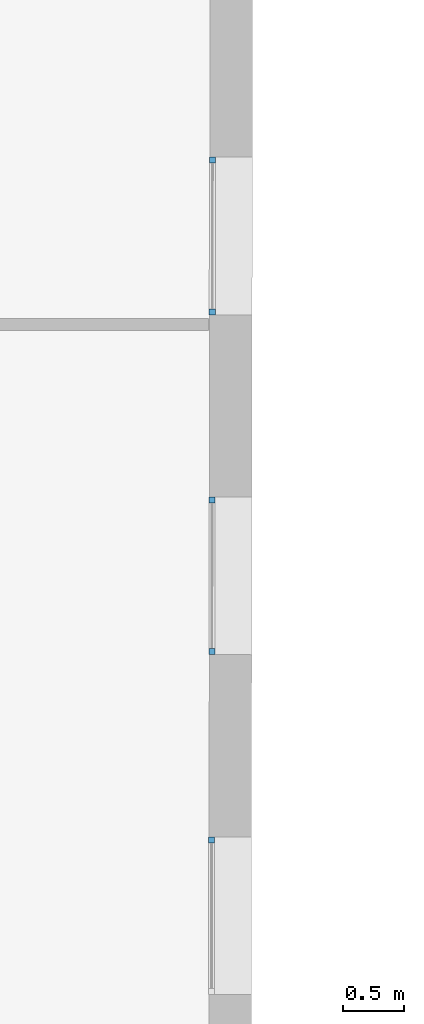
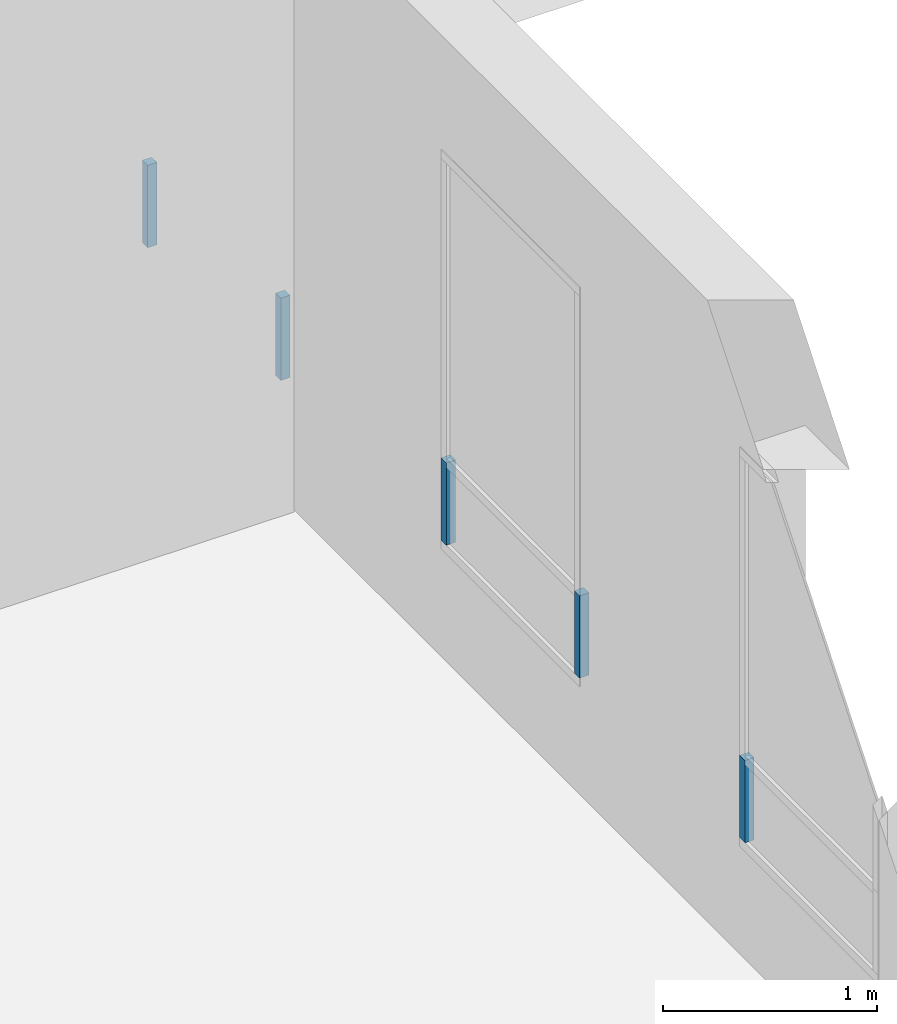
# One storey, part 31 of 101: 5 members, 3 elements without a shape of their own.
"""IFC2X3 building model written with IfcOpenShell, lengths in metres."""

import ifcopenshell
import ifcopenshell.guid

model = None  # the IFC model being written
_history = None  # IfcOwnerHistory: only IFC2X3 demands one
_inside = {}  # id of a spatial element -> (the spatial element, [elements in it])
_under = {}  # id of a project, library or spatial element -> (it, [spatial elements below it])
_declared = {}  # id of a project -> (the project, [libraries it declares])
_typed = {}  # id of a type object -> (the type object, [elements of that type])
_made_of = {}  # id of a material, layer set ... -> (it, [elements and type objects made of it])


def new_model(schema):
    """Start an empty IFC model of exactly this schema.

    Asked for "IFC4X3", IfcOpenShell would pick the latest addendum, in which some entities
    have other attributes; the version numbers below select the first issue.
    IFC2X3 requires an IfcOwnerHistory on every rooted entity: one is made here for all.
    """
    global model, _history
    if schema == "IFC4X3":
        model = ifcopenshell.file(schema_version=(4, 3, 0, 0))
    else:
        model = ifcopenshell.file(schema=schema)
    _inside.clear()
    _under.clear()
    _declared.clear()
    _typed.clear()
    _made_of.clear()
    _history = None
    if model.schema == "IFC2X3":
        org = make("IfcOrganization", Name="unknown")
        user = make(
            "IfcPersonAndOrganization",
            ThePerson=make("IfcPerson", FamilyName="unknown"),
            TheOrganization=org,
        )
        app = make(
            "IfcApplication",
            ApplicationDeveloper=org,
            Version="unknown",
            ApplicationFullName="unknown",
            ApplicationIdentifier="unknown",
        )
        _history = make(
            "IfcOwnerHistory",
            OwningUser=user,
            OwningApplication=app,
            ChangeAction="ADDED",
            CreationDate=0,
        )
    return model


def make(cls, **values):
    """One entity of the class cls with the attributes given. An attribute that is None is left unset."""
    return model.create_entity(
        cls, **{name: value for name, value in values.items() if value is not None}
    )


def entity(cls, *values):
    """Any entity or typed value of the class cls, its attributes in the order of the schema. None: left unset."""
    e = model.create_entity(cls)
    for i, value in enumerate(values):
        if value is not None:
            e[i] = value
    return e


def rooted(cls, **values):
    """An entity with a GlobalId (a new one), such as an element, a storey or a relation."""
    return make(cls, GlobalId=ifcopenshell.guid.new(), OwnerHistory=_history, **values)


def si_unit(unit_type, name, prefix=None):
    """IfcSIUnit, for example si_unit("LENGTHUNIT", "METRE", prefix="MILLI")."""
    return make("IfcSIUnit", UnitType=unit_type, Prefix=prefix, Name=name)


def converted_unit(unit_type, name, factor, base, dimensions=None, offset=None):
    """IfcConversionBasedUnit, such as the inch: factor (a typed value) times the base unit."""
    return make(
        "IfcConversionBasedUnit"
        if offset is None
        else "IfcConversionBasedUnitWithOffset",
        ConversionOffset=offset,
        Dimensions=None
        if dimensions is None
        else entity("IfcDimensionalExponents", *dimensions),
        UnitType=unit_type,
        Name=name,
        ConversionFactor=make(
            "IfcMeasureWithUnit", ValueComponent=factor, UnitComponent=base
        ),
    )


def derived_unit(unit_type, elements):
    """IfcDerivedUnit: a product of units, each with its exponent."""
    return make(
        "IfcDerivedUnit",
        Elements=[
            make("IfcDerivedUnitElement", Unit=unit, Exponent=power)
            for unit, power in elements
        ],
        UnitType=unit_type,
    )


def assignment(units):
    """IfcUnitAssignment: the units of a project."""
    return None if units is None else make("IfcUnitAssignment", Units=units)


def point(xyz):
    """IfcCartesianPoint."""
    return None if xyz is None else make("IfcCartesianPoint", Coordinates=xyz)


def direction(xyz):
    """IfcDirection."""
    return None if xyz is None else make("IfcDirection", DirectionRatios=xyz)


def frame(location, z_axis=None, x_axis=None):
    """IfcAxis2Placement3D, a coordinate frame: its origin and axes. An axis left out is left unset."""
    return make(
        "IfcAxis2Placement3D",
        Location=point(location),
        Axis=direction(z_axis),
        RefDirection=direction(x_axis),
    )


def frame_2d(location, x_axis=None):
    """IfcAxis2Placement2D, a coordinate frame in the plane: its origin and x axis."""
    return make(
        "IfcAxis2Placement2D", Location=point(location), RefDirection=direction(x_axis)
    )


def origin():
    """The frame at (0, 0, 0) with its axes left unset."""
    return frame((0.0, 0.0, 0.0))


def origin_2d_with_axis():
    """The frame at (0, 0) in the plane with the x axis (1, 0) written out."""
    return frame_2d((0.0, 0.0), x_axis=(1.0, 0.0))


def place(relative_to, where):
    """IfcLocalPlacement: puts the frame where relative to a parent placement (None: the world)."""
    return make(
        "IfcLocalPlacement", PlacementRelTo=relative_to, RelativePlacement=where
    )


def context(
    kind, dimensions, precision=None, world=None, true_north=None, identifier=None
):
    """IfcGeometricRepresentationContext, for example the 3D "Model" context."""
    return make(
        "IfcGeometricRepresentationContext",
        ContextIdentifier=identifier,
        ContextType=kind,
        CoordinateSpaceDimension=dimensions,
        Precision=precision,
        WorldCoordinateSystem=world,
        TrueNorth=true_north,
    )


def subcontext(parent, identifier, kind, view, scale=None):
    """IfcGeometricRepresentationSubContext, for example "Body" below "Model"."""
    return make(
        "IfcGeometricRepresentationSubContext",
        ContextIdentifier=identifier,
        ContextType=kind,
        ParentContext=parent,
        TargetScale=scale,
        TargetView=view,
    )


def project(units=None, contexts=None):
    """IfcProject with its units and contexts."""
    return rooted(
        "IfcProject",
        Name="project",
        RepresentationContexts=contexts,
        UnitsInContext=assignment(units),
    )


def spatial(cls, under=None, at=None, **own):
    """A site, building, storey or space (cls), placed at a placement, below another one or the project."""
    s = rooted(cls, ObjectPlacement=at, **own)
    if under is not None:
        _under.setdefault(under.id(), (under, []))[1].append(s)
    return s


def profile(cls, at=None, kind="AREA", **sizes):
    """A parametric profile (cls). Its sizes go by their IFC names, for example OverallWidth=200.0."""
    return make(cls, ProfileType=kind, Position=at, **sizes)


def rectangle(**sizes):
    """IfcRectangleProfileDef."""
    return profile("IfcRectangleProfileDef", **sizes)


def extrude(swept, where, along, depth):
    """IfcExtrudedAreaSolid: the profile swept, set in the frame where, extruded along a direction by depth."""
    return make(
        "IfcExtrudedAreaSolid",
        SweptArea=swept,
        Position=where,
        ExtrudedDirection=direction(along),
        Depth=depth,
    )


def shape(context_of_items, identifier, shape_type, items):
    """IfcShapeRepresentation: the items that make up one representation, for example the "Body"."""
    return make(
        "IfcShapeRepresentation",
        ContextOfItems=context_of_items,
        RepresentationIdentifier=identifier,
        RepresentationType=shape_type,
        Items=items,
    )


def source(mapping_origin, context_of_items, identifier, shape_type, items):
    """IfcRepresentationMap: a shape defined once, which mapped items show again and again."""
    return make(
        "IfcRepresentationMap",
        MappingOrigin=mapping_origin,
        MappedRepresentation=shape(context_of_items, identifier, shape_type, items),
    )


def transform(
    local_origin,
    x_axis=None,
    y_axis=None,
    z_axis=None,
    scale=None,
    scale2=None,
    scale3=None,
    uniform=True,
):
    """IfcCartesianTransformationOperator3D, or its non-uniform kind. x_axis, y_axis, z_axis: its Axis1, 2, 3."""
    if uniform:
        return make(
            "IfcCartesianTransformationOperator3D",
            Axis1=direction(x_axis),
            Axis2=direction(y_axis),
            LocalOrigin=point(local_origin),
            Scale=scale,
            Axis3=direction(z_axis),
        )
    return make(
        "IfcCartesianTransformationOperator3DnonUniform",
        Axis1=direction(x_axis),
        Axis2=direction(y_axis),
        LocalOrigin=point(local_origin),
        Scale=scale,
        Axis3=direction(z_axis),
        Scale2=scale2,
        Scale3=scale3,
    )


def mapped(mapping_source, mapping_target):
    """IfcMappedItem: shows the shape of a source again, moved by a transform."""
    return make(
        "IfcMappedItem", MappingSource=mapping_source, MappingTarget=mapping_target
    )


def material(Name=None, Category=None):
    """IfcMaterial."""
    return make("IfcMaterial", Name=Name, Category=Category)


def made_of(thing, what):
    """Note that an element or type object is made of a material, layer set ...; save() writes the relation."""
    if what is not None:
        _made_of.setdefault(what.id(), (what, []))[1].append(thing)
    return thing


def type_object(cls, material=None, **own):
    """A type object (cls), such as IfcWallType, which elements share."""
    return made_of(rooted(cls, **own), material)


def type_shapes(of_type, sources):
    """Give a type object the sources (RepresentationMaps) that its elements show as mapped items."""
    of_type.RepresentationMaps = sources


def element(
    cls,
    number,
    at=None,
    inside=None,
    cuts=None,
    type_object=None,
    material=None,
    context=None,
    identifier="Body",
    shape_type=None,
    held_by="IfcProductDefinitionShape",
    body=None,
    shapes=None,
    **own,
):
    """One element of the class cls, such as IfcWall. Its Tag is "e" and its number.

    at: its placement. inside: the storey or other place that contains it. cuts: it is an
    opening in that element (IfcRelVoidsElement). A single representation is given by context,
    identifier, shape_type and body (its items); several are given by shapes. held_by: the class
    of the entity that holds the representations. save() writes the other relations.
    """
    e = rooted(cls, Tag="e%d" % number, ObjectPlacement=at, **own)
    if body is not None:
        shapes = [shape(context, identifier, shape_type, body)]
    if shapes is not None:
        e.Representation = make(held_by, Representations=shapes)
    if inside is not None:
        _inside.setdefault(inside.id(), (inside, []))[1].append(e)
    if cuts is not None:
        rooted(
            "IfcRelVoidsElement", RelatingBuildingElement=cuts, RelatedOpeningElement=e
        )
    if type_object is not None:
        _typed.setdefault(type_object.id(), (type_object, []))[1].append(e)
    return made_of(e, material)


def aggregate(whole, parts):
    """IfcRelAggregates: a whole, such as a stair, and the parts it consists of."""
    return rooted("IfcRelAggregates", RelatingObject=whole, RelatedObjects=parts)


def save(model, path):
    """Write the relations noted so far, then the file.

    IfcRelAggregates (storeys below a building ...), IfcRelContainedInSpatialStructure (elements
    in a storey), IfcRelDefinesByType, IfcRelAssociatesMaterial and IfcRelDeclares: one each for
    every whole, place, type object, material and project.
    """
    for whole, parts in _under.values():
        aggregate(whole, parts)
    for where, things in _inside.values():
        rooted(
            "IfcRelContainedInSpatialStructure",
            RelatedElements=things,
            RelatingStructure=where,
        )
    for kind, things in _typed.values():
        rooted("IfcRelDefinesByType", RelatedObjects=things, RelatingType=kind)
    for what, things in _made_of.values():
        rooted("IfcRelAssociatesMaterial", RelatedObjects=things, RelatingMaterial=what)
    for by, libraries in _declared.values():
        rooted("IfcRelDeclares", RelatingContext=by, RelatedDefinitions=libraries)
    model.write(path)


model = new_model("IFC2X3")

# Units and contexts
model_context = context("Model", 3, precision=1e-05, world=origin(), true_north=direction((6.123233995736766e-17, 1.0)))
body_context = subcontext(model_context, "Body", "Model", "MODEL_VIEW")
ifc_project = project(units=[si_unit("LENGTHUNIT", "METRE"), si_unit("AREAUNIT", "SQUARE_METRE"), converted_unit("PLANEANGLEUNIT", "DEGREE", entity("IfcPlaneAngleMeasure", 0.017453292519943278), si_unit("PLANEANGLEUNIT", "RADIAN"), dimensions=[0, 0, 0, 0, 0, 0, 0]), derived_unit("THERMALTRANSMITTANCEUNIT", [(si_unit("MASSUNIT", "GRAM", prefix="KILO"), 1), (si_unit("THERMODYNAMICTEMPERATUREUNIT", "KELVIN"), -1), (si_unit("TIMEUNIT", "SECOND"), -3)])], contexts=[model_context])

# Site, building, storey
site_placement = place(None, frame((1253.6752467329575, 2072.143113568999, 91.49999999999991), z_axis=(0.0, 0.0, 1.0), x_axis=(0.7237211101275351, 0.6900925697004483, 0.0)))
site = spatial("IfcSite", under=ifc_project, at=site_placement, Name="Surface", CompositionType="ELEMENT")
building_placement = place(site_placement, origin())
building = spatial("IfcBuilding", under=site, at=building_placement, CompositionType="ELEMENT")
storey_placement = place(building_placement, origin())
storey = spatial("IfcBuildingStorey", under=building, at=storey_placement, Name="0- Rdc", CompositionType="ELEMENT", Elevation=-5.764692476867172e-13)

# Curtain wall, member
curtain_wall_type = type_object("IfcCurtainWallType", Name="Mur-rideau:Menuiserie Ext 1F+1OB VERTIC", PredefinedType="NOTDEFINED")
curtain_wall_1_placement = place(storey_placement, origin())
curtain_wall_1 = element("IfcCurtainWall", 1, at=curtain_wall_1_placement, inside=storey, type_object=curtain_wall_type, Name="Mur-rideau:Menuiserie Ext 1F+1OB VERTIC", ObjectType="Mur-rideau:Menuiserie Ext 1F+1OB VERTIC")
ifc_material = material(Name="OMD_Aluminium Men Ext")
member_type_1 = type_object("IfcMemberType", Name="Meneau rectangulaire:50x50", PredefinedType="MULLION", material=ifc_material)
shared_shape_1 = source(origin(), body_context, "Body", "SweptSolid", [
    extrude(rectangle(XDim=0.05, YDim=0.049999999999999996, at=origin_2d_with_axis()), frame((-0.025, 0.0, -0.4699999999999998), z_axis=(0.0, 0.0, 1.0), x_axis=(-1.0, 0.0, 0.0)), (0.0, 0.0, 1.0), 0.4699999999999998),
])
type_shapes(member_type_1, [shared_shape_1])
member_1_placement = place(curtain_wall_1_placement, frame((194.64624495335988, -13.201600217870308, 0.6699999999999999), z_axis=(0.0, 0.0, -1.0), x_axis=(0.6909838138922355, 0.7228702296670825, 0.0)))
member_1 = element("IfcMember", 2, at=member_1_placement, type_object=member_type_1, material=ifc_material, Name="Meneau rectangulaire:50x50", ObjectType="Meneau rectangulaire:50x50", context=body_context, shape_type="MappedRepresentation", body=[
    mapped(shared_shape_1, transform((0.0, 0.0, 0.0), scale=1.0)),
])

curtain_wall_2_placement = place(storey_placement, origin())
curtain_wall_2 = element("IfcCurtainWall", 3, at=curtain_wall_2_placement, inside=storey, type_object=curtain_wall_type, Name="Mur-rideau:Menuiserie Ext 1F+1OB VERTIC", ObjectType="Mur-rideau:Menuiserie Ext 1F+1OB VERTIC")
member_2_placement = place(curtain_wall_2_placement, frame((192.71149027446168, -15.225636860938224, 0.6699999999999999), z_axis=(0.0, 0.0, -1.0), x_axis=(0.6909838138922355, 0.7228702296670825, 0.0)))
member_2 = element("IfcMember", 4, at=member_2_placement, type_object=member_type_1, material=ifc_material, Name="Meneau rectangulaire:50x50", ObjectType="Meneau rectangulaire:50x50", context=body_context, shape_type="MappedRepresentation", body=[
    mapped(shared_shape_1, transform((0.0, 0.0, 0.0), scale=1.0)),
])

curtain_wall_3_placement = place(storey_placement, origin())
curtain_wall_3 = element("IfcCurtainWall", 5, at=curtain_wall_3_placement, inside=storey, type_object=curtain_wall_type, Name="Mur-rideau:Menuiserie Ext 1F+1OB VERTIC", ObjectType="Mur-rideau:Menuiserie Ext 1F+1OB VERTIC")
member_3_placement = place(curtain_wall_3_placement, frame((190.77673559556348, -17.249673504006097, 0.6699999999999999), z_axis=(0.0, 0.0, -1.0), x_axis=(0.6909838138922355, 0.7228702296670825, 0.0)))
member_3 = element("IfcMember", 6, at=member_3_placement, type_object=member_type_1, material=ifc_material, Name="Meneau rectangulaire:50x50", ObjectType="Meneau rectangulaire:50x50", context=body_context, shape_type="MappedRepresentation", body=[
    mapped(shared_shape_1, transform((0.0, 0.0, 0.0), scale=1.0)),
])
aggregate(curtain_wall_3, [member_3])

# Member
member_type_2 = type_object("IfcMemberType", Name="Meneau rectangulaire:50x50", PredefinedType="MULLION", material=ifc_material)
shared_shape_2 = source(origin(), body_context, "Body", "SweptSolid", [
    extrude(rectangle(XDim=0.05, YDim=0.049999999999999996, at=origin_2d_with_axis()), frame((-0.025, 0.0, -0.4699999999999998), z_axis=(0.0, 0.0, 1.0), x_axis=(-1.0, 0.0, 0.0)), (0.0, 0.0, 1.0), 0.4699999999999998),
])
type_shapes(member_type_2, [shared_shape_2])
member_4_placement = place(curtain_wall_1_placement, frame((193.74817612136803, -14.14111169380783, 1.14), z_axis=(0.0, 0.0, 1.0), x_axis=(-0.6909838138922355, -0.7228702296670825, 0.0)))
member_4 = element("IfcMember", 7, at=member_4_placement, type_object=member_type_2, material=ifc_material, Name="Meneau rectangulaire:50x50", ObjectType="Meneau rectangulaire:50x50", context=body_context, shape_type="MappedRepresentation", body=[
    mapped(shared_shape_2, transform((0.0, 0.0, 0.0), scale=1.0)),
])

aggregate(curtain_wall_1, [member_1, member_4])

member_5_placement = place(curtain_wall_2_placement, frame((191.8134214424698, -16.16514833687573, 1.14), z_axis=(0.0, 0.0, 1.0), x_axis=(-0.6909838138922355, -0.7228702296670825, 0.0)))
member_5 = element("IfcMember", 8, at=member_5_placement, type_object=member_type_2, material=ifc_material, Name="Meneau rectangulaire:50x50", ObjectType="Meneau rectangulaire:50x50", context=body_context, shape_type="MappedRepresentation", body=[
    mapped(shared_shape_2, transform((0.0, 0.0, 0.0), scale=1.0)),
])

aggregate(curtain_wall_2, [member_2, member_5])

save(model, "model.ifc")
